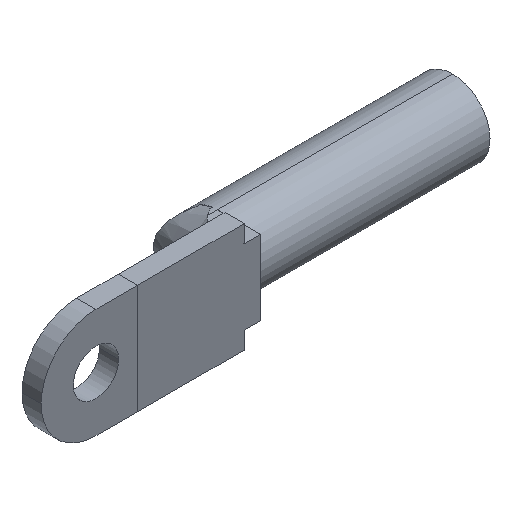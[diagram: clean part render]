
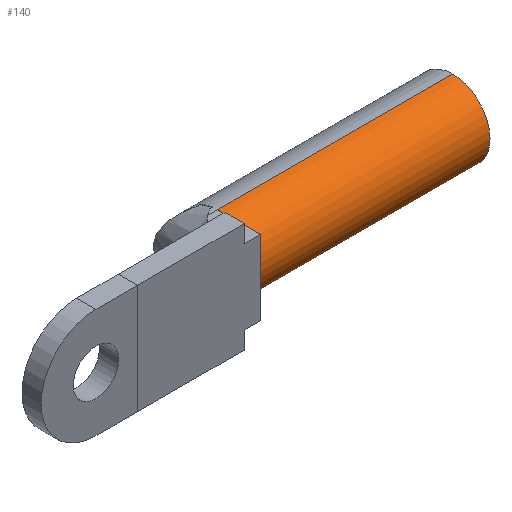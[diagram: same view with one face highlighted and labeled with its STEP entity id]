
A CAD part, isometric view. The second image highlights one B-rep face of the part: STEP entity #140.
In plain terms, the highlighted cylindrical face has radius 7 mm (diameter 14 mm), a partial arc.
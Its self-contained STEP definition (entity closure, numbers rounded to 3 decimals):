
#41 = ORIENTED_EDGE ( 'NONE', *, *, #953, .T. ) ;
#42 = DIRECTION ( 'NONE',  ( 0., 0., -1. ) ) ;
#62 = EDGE_CURVE ( 'NONE', #214, #307, #778, .T. ) ;
#112 = VERTEX_POINT ( 'NONE', #988 ) ;
#132 = DIRECTION ( 'NONE',  ( -1., 0., 0. ) ) ;
#140 = ADVANCED_FACE ( 'NONE', ( #559 ), #671, .T. ) ;
#142 = CARTESIAN_POINT ( 'NONE',  ( 44., 7., -7. ) ) ;
#178 = CARTESIAN_POINT ( 'NONE',  ( 44., 7., 7. ) ) ;
#193 = ORIENTED_EDGE ( 'NONE', *, *, #783, .T. ) ;
#201 = DIRECTION ( 'NONE',  ( -1., 0., 0. ) ) ;
#214 = VERTEX_POINT ( 'NONE', #452 ) ;
#281 = CARTESIAN_POINT ( 'NONE',  ( 44., 7., 0. ) ) ;
#307 = VERTEX_POINT ( 'NONE', #470 ) ;
#340 = AXIS2_PLACEMENT_3D ( 'NONE', #775, #698, #42 ) ;
#344 = DIRECTION ( 'NONE',  ( 1., 0., 0. ) ) ;
#410 = DIRECTION ( 'NONE',  ( -1., 0., 0. ) ) ;
#449 = VECTOR ( 'NONE', #132, 1000. ) ;
#452 = CARTESIAN_POINT ( 'NONE',  ( 44., 7., -7. ) ) ;
#470 = CARTESIAN_POINT ( 'NONE',  ( 0., 7., -7. ) ) ;
#495 = AXIS2_PLACEMENT_3D ( 'NONE', #281, #201, #836 ) ;
#559 = FACE_OUTER_BOUND ( 'NONE', #861, .T. ) ;
#572 = LINE ( 'NONE', #652, #760 ) ;
#608 = EDGE_CURVE ( 'NONE', #823, #214, #790, .T. ) ;
#649 = AXIS2_PLACEMENT_3D ( 'NONE', #829, #344, #909 ) ;
#652 = CARTESIAN_POINT ( 'NONE',  ( 44., 7., 7. ) ) ;
#671 = CYLINDRICAL_SURFACE ( 'NONE', #495, 7. ) ;
#698 = DIRECTION ( 'NONE',  ( 1., 0., 0. ) ) ;
#740 = ORIENTED_EDGE ( 'NONE', *, *, #608, .F. ) ;
#760 = VECTOR ( 'NONE', #410, 1000. ) ;
#775 = CARTESIAN_POINT ( 'NONE',  ( 44., 7., 0. ) ) ;
#778 = LINE ( 'NONE', #142, #449 ) ;
#783 = EDGE_CURVE ( 'NONE', #823, #112, #572, .T. ) ;
#790 = CIRCLE ( 'NONE', #340, 7. ) ;
#797 = CIRCLE ( 'NONE', #649, 7. ) ;
#823 = VERTEX_POINT ( 'NONE', #178 ) ;
#829 = CARTESIAN_POINT ( 'NONE',  ( 0., 7., 0. ) ) ;
#836 = DIRECTION ( 'NONE',  ( 0., 0., 1. ) ) ;
#861 = EDGE_LOOP ( 'NONE', ( #986, #740, #193, #41 ) ) ;
#909 = DIRECTION ( 'NONE',  ( 0., 0., 1. ) ) ;
#953 = EDGE_CURVE ( 'NONE', #112, #307, #797, .T. ) ;
#986 = ORIENTED_EDGE ( 'NONE', *, *, #62, .F. ) ;
#988 = CARTESIAN_POINT ( 'NONE',  ( 0., 7., 7. ) ) ;
